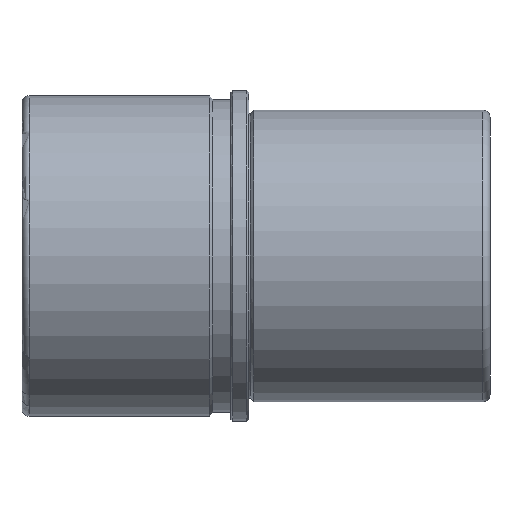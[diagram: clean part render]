
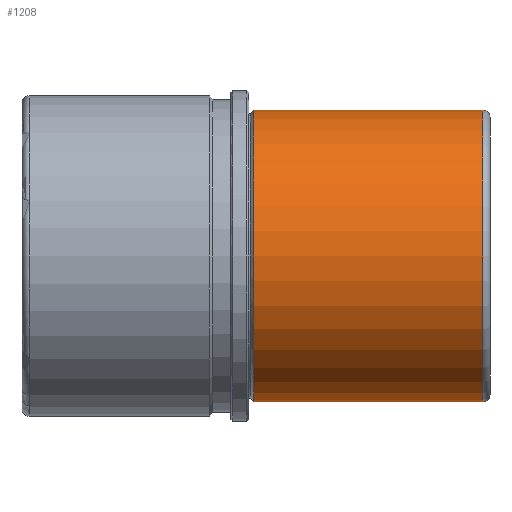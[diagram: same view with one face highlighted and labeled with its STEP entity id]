
A CAD part, front view. The second image highlights one B-rep face of the part: STEP entity #1208.
In plain terms, the highlighted cylindrical face has radius 40.5 mm (diameter 81 mm), a partial arc.
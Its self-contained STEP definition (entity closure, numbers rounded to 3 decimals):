
#966=CARTESIAN_POINT('Vertex',(65.,0.,40.5)) ;
#973=CARTESIAN_POINT('Vertex',(65.,0.,-40.5)) ;
#1002=CARTESIAN_POINT('Axis2P3D Location',(65.,0.,0.)) ;
#1006=CARTESIAN_POINT('Vertex',(65.,-40.5,0.)) ;
#1009=CARTESIAN_POINT('Axis2P3D Location',(65.,0.,0.)) ;
#1148=CARTESIAN_POINT('Line Origine',(67.,0.,40.5)) ;
#1152=CARTESIAN_POINT('Vertex',(1.414,0.,40.5)) ;
#1155=CARTESIAN_POINT('Line Origine',(67.,0.,-40.5)) ;
#1159=CARTESIAN_POINT('Vertex',(1.414,0.,-40.5)) ;
#1183=CARTESIAN_POINT('Axis2P3D Location',(67.,0.,0.)) ;
#1188=CARTESIAN_POINT('Axis2P3D Location',(1.414,0.,0.)) ;
#1192=CARTESIAN_POINT('Vertex',(1.414,-40.5,0.)) ;
#1195=CARTESIAN_POINT('Axis2P3D Location',(1.414,0.,0.)) ;
#1003=DIRECTION('Axis2P3D Direction',(1.,0.,0.)) ;
#1010=DIRECTION('Axis2P3D Direction',(1.,0.,0.)) ;
#1149=DIRECTION('Vector Direction',(-1.,0.,0.)) ;
#1156=DIRECTION('Vector Direction',(-1.,0.,0.)) ;
#1184=DIRECTION('Axis2P3D Direction',(-1.,-0.,-0.)) ;
#1185=DIRECTION('Axis2P3D XDirection',(0.,0.,-1.)) ;
#1189=DIRECTION('Axis2P3D Direction',(-1.,-0.,-0.)) ;
#1196=DIRECTION('Axis2P3D Direction',(-1.,-0.,-0.)) ;
#1004=AXIS2_PLACEMENT_3D('Circle Axis2P3D',#1002,#1003,$) ;
#1011=AXIS2_PLACEMENT_3D('Circle Axis2P3D',#1009,#1010,$) ;
#1186=AXIS2_PLACEMENT_3D('Cylinder Axis2P3D',#1183,#1184,#1185) ;
#1190=AXIS2_PLACEMENT_3D('Circle Axis2P3D',#1188,#1189,$) ;
#1197=AXIS2_PLACEMENT_3D('Circle Axis2P3D',#1195,#1196,$) ;
#1201=ORIENTED_EDGE('',*,*,#1161,.T.) ;
#1202=ORIENTED_EDGE('',*,*,#1013,.F.) ;
#1203=ORIENTED_EDGE('',*,*,#1008,.F.) ;
#1204=ORIENTED_EDGE('',*,*,#1154,.T.) ;
#1205=ORIENTED_EDGE('',*,*,#1194,.T.) ;
#1206=ORIENTED_EDGE('',*,*,#1199,.T.) ;
#1150=VECTOR('Line Direction',#1149,1.) ;
#1157=VECTOR('Line Direction',#1156,1.) ;
#1208=ADVANCED_FACE('FAMO-SF1-D63 x 130',(#1207),#1187,.T.) ;
#1005=CIRCLE('generated circle',#1004,40.5) ;
#1012=CIRCLE('generated circle',#1011,40.5) ;
#1191=CIRCLE('generated circle',#1190,40.5) ;
#1198=CIRCLE('generated circle',#1197,40.5) ;
#1187=CYLINDRICAL_SURFACE('generated cylinder',#1186,40.5) ;
#1008=EDGE_CURVE('',#967,#1007,#1005,.T.) ;
#1013=EDGE_CURVE('',#1007,#974,#1012,.T.) ;
#1154=EDGE_CURVE('',#967,#1153,#1151,.T.) ;
#1161=EDGE_CURVE('',#1160,#974,#1158,.F.) ;
#1194=EDGE_CURVE('',#1153,#1193,#1191,.F.) ;
#1199=EDGE_CURVE('',#1193,#1160,#1198,.F.) ;
#1200=EDGE_LOOP('',(#1201,#1202,#1203,#1204,#1205,#1206)) ;
#1207=FACE_OUTER_BOUND('',#1200,.T.) ;
#1151=LINE('Line',#1148,#1150) ;
#1158=LINE('Line',#1155,#1157) ;
#967=VERTEX_POINT('',#966) ;
#974=VERTEX_POINT('',#973) ;
#1007=VERTEX_POINT('',#1006) ;
#1153=VERTEX_POINT('',#1152) ;
#1160=VERTEX_POINT('',#1159) ;
#1193=VERTEX_POINT('',#1192) ;
